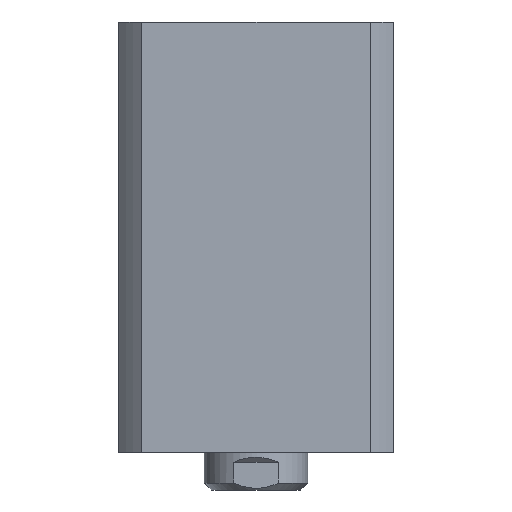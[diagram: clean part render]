
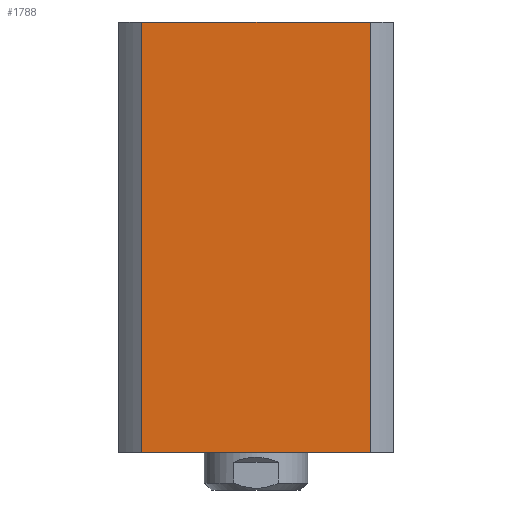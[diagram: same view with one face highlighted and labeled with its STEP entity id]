
A CAD part, left-side view. The second image highlights one B-rep face of the part: STEP entity #1788.
In plain terms, the highlighted planar face has unit normal (-1, 0, 0).
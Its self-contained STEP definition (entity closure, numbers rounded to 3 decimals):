
#6 = EDGE_CURVE ( 'NONE', #8696, #2264, #10899, .T. ) ;
#161 = CARTESIAN_POINT ( 'NONE',  ( -40., -33.226, 62.5 ) ) ;
#273 = VECTOR ( 'NONE', #10379, 1000. ) ;
#521 = VERTEX_POINT ( 'NONE', #12878 ) ;
#725 = VECTOR ( 'NONE', #4616, 1000. ) ;
#969 = DIRECTION ( 'NONE',  ( 1., 0., 0. ) ) ;
#1118 = ORIENTED_EDGE ( 'NONE', *, *, #13234, .F. ) ;
#1744 = CARTESIAN_POINT ( 'NONE',  ( -40., -33.226, -62.5 ) ) ;
#1788 = ADVANCED_FACE ( 'NONE', ( #9839 ), #7270, .F. ) ;
#2264 = VERTEX_POINT ( 'NONE', #1744 ) ;
#2723 = ORIENTED_EDGE ( 'NONE', *, *, #6, .T. ) ;
#2770 = ORIENTED_EDGE ( 'NONE', *, *, #7652, .F. ) ;
#2999 = AXIS2_PLACEMENT_3D ( 'NONE', #7459, #969, #4154 ) ;
#4154 = DIRECTION ( 'NONE',  ( 0., 1., 0. ) ) ;
#4440 = EDGE_LOOP ( 'NONE', ( #2723, #1118, #2770, #9732 ) ) ;
#4616 = DIRECTION ( 'NONE',  ( 0., -1., 0. ) ) ;
#4707 = CARTESIAN_POINT ( 'NONE',  ( -40., 33.226, -62.5 ) ) ;
#5232 = LINE ( 'NONE', #8130, #10983 ) ;
#5533 = CARTESIAN_POINT ( 'NONE',  ( -40., 33.226, 62.5 ) ) ;
#5648 = LINE ( 'NONE', #5533, #11220 ) ;
#6200 = LINE ( 'NONE', #12572, #273 ) ;
#7179 = DIRECTION ( 'NONE',  ( 0., 0., -1. ) ) ;
#7270 = PLANE ( 'NONE',  #2999 ) ;
#7459 = CARTESIAN_POINT ( 'NONE',  ( -40., 33.226, 62.5 ) ) ;
#7598 = DIRECTION ( 'NONE',  ( 0., -1., 0. ) ) ;
#7652 = EDGE_CURVE ( 'NONE', #521, #8372, #5648, .T. ) ;
#8130 = CARTESIAN_POINT ( 'NONE',  ( -40., -33.226, 62.5 ) ) ;
#8372 = VERTEX_POINT ( 'NONE', #161 ) ;
#8696 = VERTEX_POINT ( 'NONE', #4707 ) ;
#9732 = ORIENTED_EDGE ( 'NONE', *, *, #9924, .T. ) ;
#9839 = FACE_OUTER_BOUND ( 'NONE', #4440, .T. ) ;
#9924 = EDGE_CURVE ( 'NONE', #521, #8696, #6200, .T. ) ;
#10379 = DIRECTION ( 'NONE',  ( 0., 0., -1. ) ) ;
#10899 = LINE ( 'NONE', #11127, #725 ) ;
#10983 = VECTOR ( 'NONE', #7179, 1000. ) ;
#11127 = CARTESIAN_POINT ( 'NONE',  ( -40., 33.226, -62.5 ) ) ;
#11220 = VECTOR ( 'NONE', #7598, 1000. ) ;
#12572 = CARTESIAN_POINT ( 'NONE',  ( -40., 33.226, 62.5 ) ) ;
#12878 = CARTESIAN_POINT ( 'NONE',  ( -40., 33.226, 62.5 ) ) ;
#13234 = EDGE_CURVE ( 'NONE', #8372, #2264, #5232, .T. ) ;
